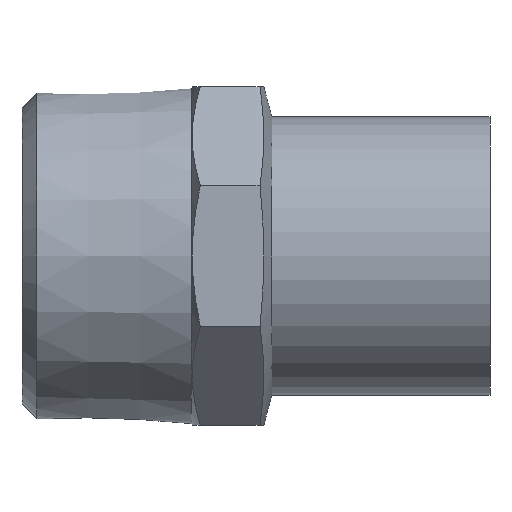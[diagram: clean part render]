
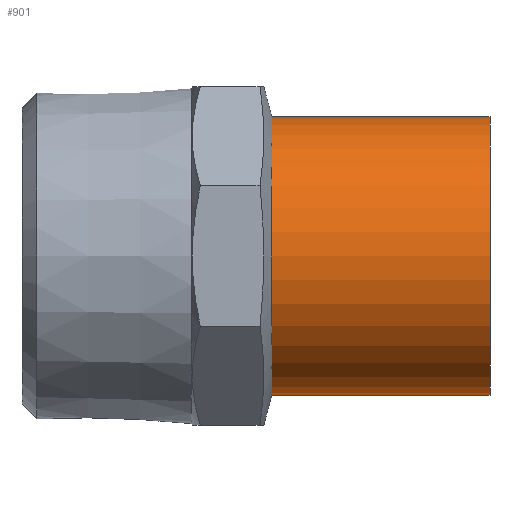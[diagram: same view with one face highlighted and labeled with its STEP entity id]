
A CAD part, front view. The second image highlights one B-rep face of the part: STEP entity #901.
In plain terms, the highlighted cylindrical face has radius 14 mm (diameter 28 mm), a full revolution.
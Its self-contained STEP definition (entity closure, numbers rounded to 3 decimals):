
#451=CARTESIAN_POINT('',(25.085,14.,0.0));
#452=VERTEX_POINT('',#451);
#453=CARTESIAN_POINT('',(25.085,0.0,0.0));
#454=DIRECTION('',(1.0,0.0,0.0));
#455=DIRECTION('',(0.0,1.0,0.0));
#456=AXIS2_PLACEMENT_3D('',#453,#454,#455);
#457=CIRCLE('',#456,14.);
#458=EDGE_CURVE('',#452,#452,#457,.T.);
#882=CARTESIAN_POINT('',(36.042,0.0,0.0));
#883=DIRECTION('',(1.0,0.0,0.0));
#884=DIRECTION('',(0.0,1.0,0.0));
#885=AXIS2_PLACEMENT_3D('',#882,#883,#884);
#886=CYLINDRICAL_SURFACE('',#885,14.);
#887=CARTESIAN_POINT('',(47.,14.,0.0));
#888=VERTEX_POINT('',#887);
#889=CARTESIAN_POINT('',(47.,0.0,0.0));
#890=DIRECTION('',(1.0,0.0,0.0));
#891=DIRECTION('',(0.0,1.0,0.0));
#892=AXIS2_PLACEMENT_3D('',#889,#890,#891);
#893=CIRCLE('',#892,14.);
#894=EDGE_CURVE('',#888,#888,#893,.T.);
#895=ORIENTED_EDGE('',*,*,#894,.F.);
#896=EDGE_LOOP('',(#895));
#897=FACE_OUTER_BOUND('',#896,.T.);
#898=ORIENTED_EDGE('',*,*,#458,.T.);
#899=EDGE_LOOP('',(#898));
#900=FACE_BOUND('',#899,.T.);
#901=ADVANCED_FACE('',(#897,#900),#886,.T.);
